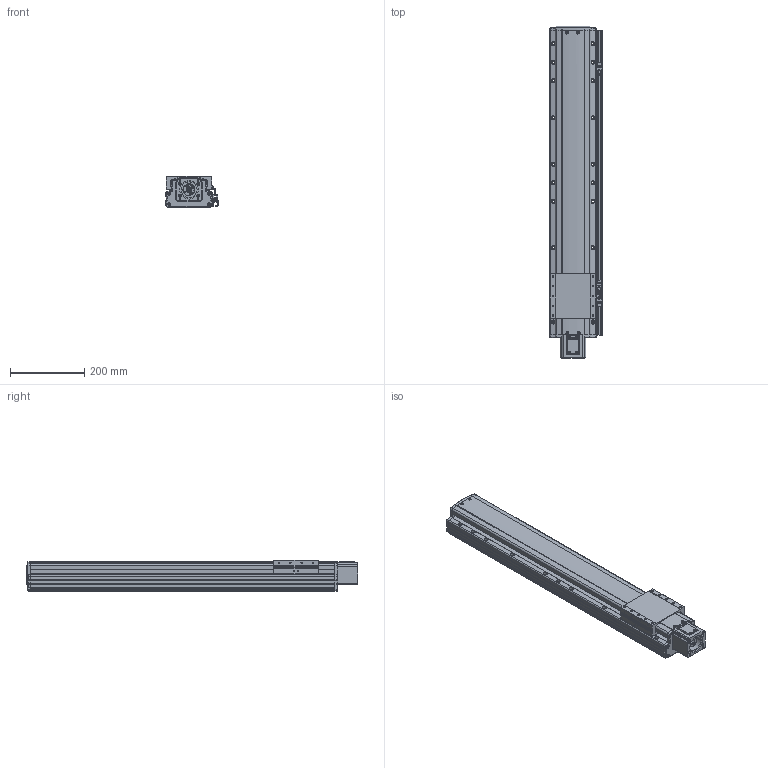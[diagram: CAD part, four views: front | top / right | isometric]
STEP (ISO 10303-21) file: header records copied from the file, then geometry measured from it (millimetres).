
FILE_DESCRIPTION(('STEP AP214'),'1');
FILE_NAME('Z:/Web/3D/PSA125/STP/PSA125-600 (3D)/PSA125ㅁㅁ-600S+3SR.stp','2014-06-23T03:37:24',(' '),(' '),'Spatial InterOp 3D',' ',' ');
FILE_SCHEMA(('automotive_design'));
Length unit declared in the file: millimetre
Products named in the file (53): 스크루 : Round - M4.0 x 10.0; RRCV-PA120; SLIDE; BASE; FRCV-PA120-1(기준 뿔 제거); RR1500; 스크루 : Round - M4.0 x 6.0; 너트 : Square - M10.0 x 220.7419; SSFX-SAN65; CPLCV-SAN65; 스크루 : Round - M3.0 x 6.0; MTHZ-PA120-S60A-3; 스크루 : Socket - M4.0 x 20.0; FRCV; NONE; EE-SX674; SBK-SX674-352; M3.0 x 6.0; SRL-16x17-380L; SGD-PA95; 스크루 : Round - M3.0 x 8.0
Bounding box: 141 x 894.6 x 86 mm (x, y, z)
Volume: 7307173.6 mm3; surface area: 743329.6 mm2
Topology: 53 solids, 87 shells, 3683 faces, 9454 edges, 5984 vertices
Faces by surface type: plane 1822, cylinder 1119, cone 457, torus 174, sphere 70, bspline 41
Entity records: 145182 total; most frequent: CARTESIAN_POINT 23581, DIRECTION 19812, ORIENTED_EDGE 18580, EDGE_CURVE 9290, AXIS2_PLACEMENT_3D 7083, VERTEX_POINT 5984, LINE 5646, VECTOR 5646
